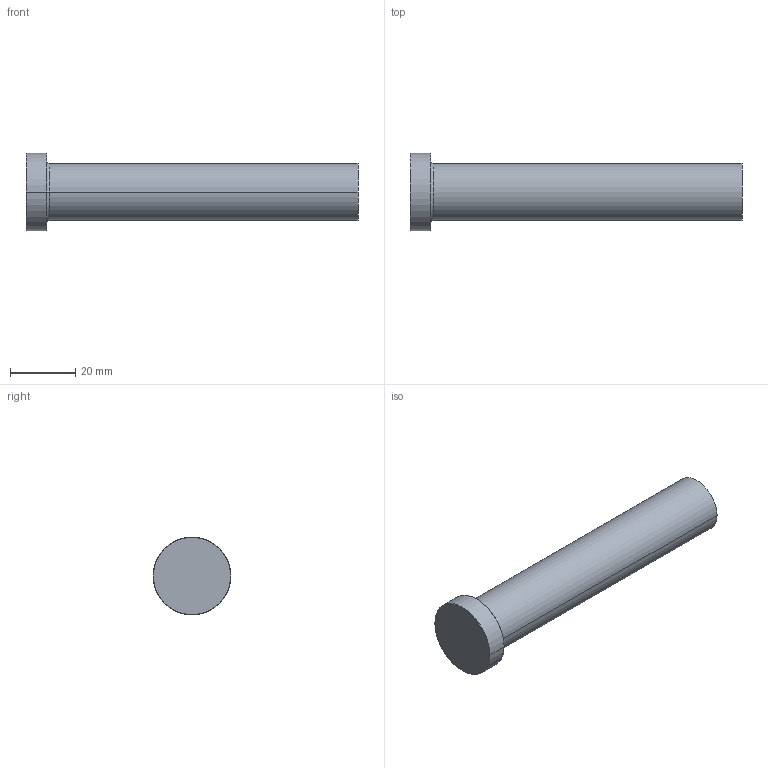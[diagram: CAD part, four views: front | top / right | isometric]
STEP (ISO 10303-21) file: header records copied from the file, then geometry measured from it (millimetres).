
FILE_DESCRIPTION (( 'STEP AP214' ), '1' );
FILE_NAME ('P39-4.STEP', '2020-03-12T12:10:39', ( '' ), ( '' ), 'SwSTEP 2.0', 'SolidWorks 2018', '' );
FILE_SCHEMA (( 'AUTOMOTIVE_DESIGN' ));
Length unit declared in the file: inch
Products named in the file (1): P39-4
Bounding box: 101.6 x 23.81 x 23.81 mm (x, y, z)
Volume: 25613.2 mm3; surface area: 6560.8 mm2
Topology: 1 solids, 1 shells, 13 faces, 24 edges, 14 vertices
Faces by surface type: cone 4, cylinder 4, plane 3, torus 2
Entity records: 366 total; most frequent: DIRECTION 68, CARTESIAN_POINT 52, ORIENTED_EDGE 48, AXIS2_PLACEMENT_3D 30, EDGE_CURVE 24, CIRCLE 16, VERTEX_POINT 14, EDGE_LOOP 14
